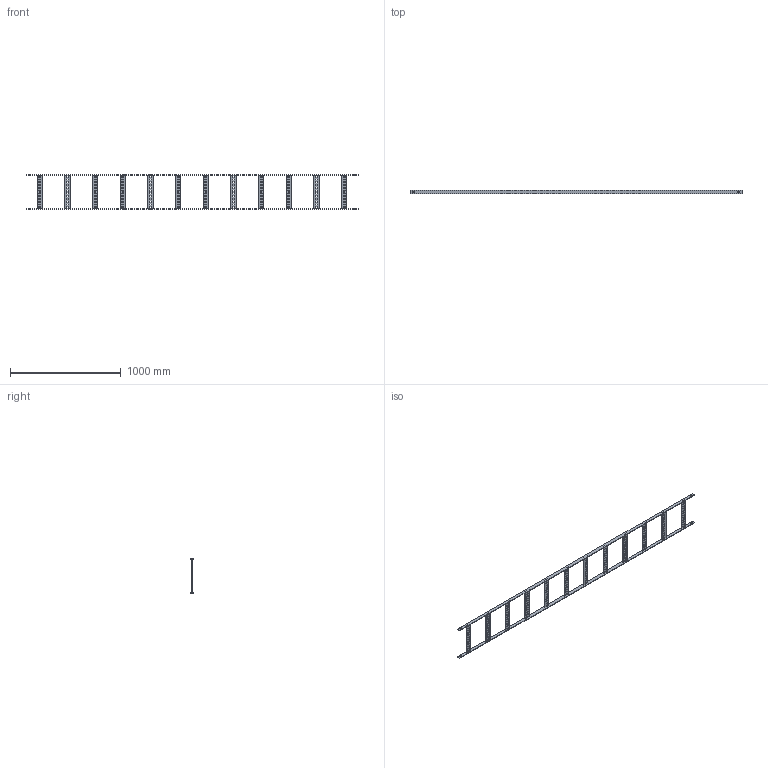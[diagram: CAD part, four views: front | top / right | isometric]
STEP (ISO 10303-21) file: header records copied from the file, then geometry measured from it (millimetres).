
FILE_DESCRIPTION(('Creo Elements/Direct Modeling STEP Export'),'2;1');
FILE_NAME('//pserver/office/EK/ME10-3D/3D-output/SKL 300F.stp','2020-03-10T 9:29:47',(''),(''),'PTC Creo Elements/Direct Modeling STEP processor for AP214 (Solid Model)','PTC Creo Elements/Direct Modeling 19.0C 15-Aug-2015 (C) Parametric Technology GmbH','');
FILE_SCHEMA(('AUTOMOTIVE_DESIGN { 1 0 10303 214 1 1 1 1 }'));
Length unit declared in the file: millimetre
Products named in the file (3): SKL_Holm-L3000.1; SKLSP_030B.007; SKL_300F
Assembly tree (14 placements, depth 2):
  SKL_300F
    SKLSP_030B.007  x12
    SKL_Holm-L3000.1  x2
Bounding box: 3000 x 30 x 310 mm (x, y, z)
Volume: 1541384.5 mm3; surface area: 804001 mm2
Topology: 14 solids, 14 shells, 676 faces, 1944 edges, 1296 vertices
Faces by surface type: plane 380, cylinder 296
Entity records: 2439 total; most frequent: DIRECTION 414, CARTESIAN_POINT 403, ORIENTED_EDGE 384, EDGE_CURVE 192, AXIS2_PLACEMENT_3D 139, VECTOR 136, LINE 136, VERTEX_POINT 128
